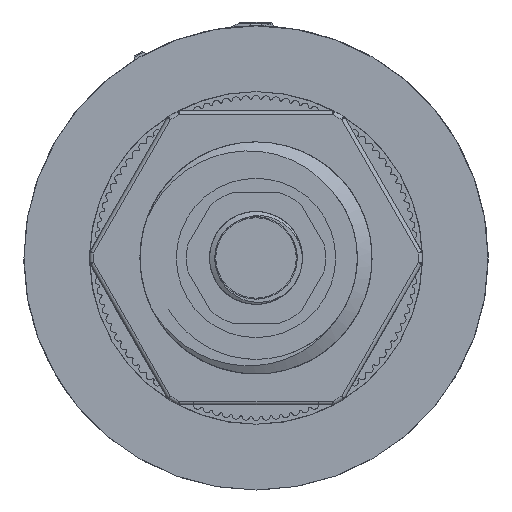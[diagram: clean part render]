
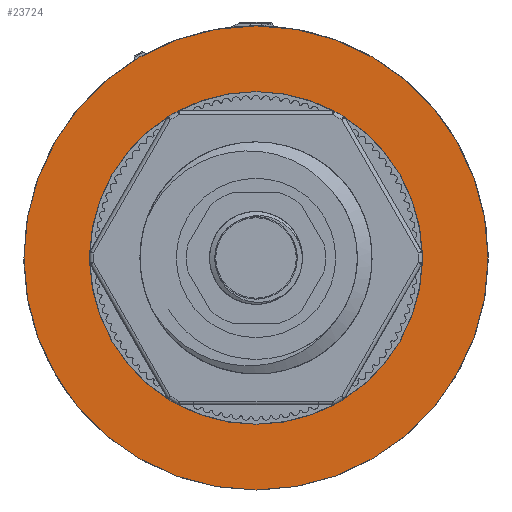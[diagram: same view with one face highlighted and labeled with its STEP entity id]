
A CAD part, front view. The second image highlights one B-rep face of the part: STEP entity #23724.
In plain terms, the highlighted planar face has unit normal (0, -1, 0).
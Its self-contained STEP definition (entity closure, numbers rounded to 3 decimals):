
#480 = DIRECTION ( 'NONE',  ( 0., 0., 1. ) ) ;
#2487 = EDGE_CURVE ( 'NONE', #6476, #5646, #4866, .T. ) ;
#2674 = FACE_OUTER_BOUND ( 'NONE', #14861, .T. ) ;
#3742 = ORIENTED_EDGE ( 'NONE', *, *, #19989, .F. ) ;
#4086 = DIRECTION ( 'NONE',  ( 0., -1., 0. ) ) ;
#4866 = CIRCLE ( 'NONE', #10434, 21.5 ) ;
#5159 = PLANE ( 'NONE',  #22711 ) ;
#5232 = ORIENTED_EDGE ( 'NONE', *, *, #2487, .F. ) ;
#5347 = AXIS2_PLACEMENT_3D ( 'NONE', #22047, #8903, #15616 ) ;
#5646 = VERTEX_POINT ( 'NONE', #8251 ) ;
#6476 = VERTEX_POINT ( 'NONE', #19961 ) ;
#8251 = CARTESIAN_POINT ( 'NONE',  ( 0., 50.3, 21.5 ) ) ;
#8256 = DIRECTION ( 'NONE',  ( 0., 0., -1. ) ) ;
#8903 = DIRECTION ( 'NONE',  ( 0., -1., 0. ) ) ;
#9163 = ORIENTED_EDGE ( 'NONE', *, *, #18937, .T. ) ;
#10339 = ORIENTED_EDGE ( 'NONE', *, *, #14150, .T. ) ;
#10434 = AXIS2_PLACEMENT_3D ( 'NONE', #26878, #22631, #20441 ) ;
#11263 = VERTEX_POINT ( 'NONE', #24715 ) ;
#11329 = EDGE_LOOP ( 'NONE', ( #3742, #5232 ) ) ;
#12195 = CIRCLE ( 'NONE', #28540, 30. ) ;
#12266 = VERTEX_POINT ( 'NONE', #24759 ) ;
#12980 = DIRECTION ( 'NONE',  ( 0., 0., -1. ) ) ;
#13043 = DIRECTION ( 'NONE',  ( 0., -1., 0. ) ) ;
#14150 = EDGE_CURVE ( 'NONE', #11263, #12266, #12195, .T. ) ;
#14678 = CIRCLE ( 'NONE', #5347, 30. ) ;
#14861 = EDGE_LOOP ( 'NONE', ( #9163, #10339 ) ) ;
#15616 = DIRECTION ( 'NONE',  ( 0., 0., -1. ) ) ;
#16382 = FACE_BOUND ( 'NONE', #11329, .T. ) ;
#18937 = EDGE_CURVE ( 'NONE', #12266, #11263, #14678, .T. ) ;
#19599 = AXIS2_PLACEMENT_3D ( 'NONE', #26650, #13043, #8256 ) ;
#19961 = CARTESIAN_POINT ( 'NONE',  ( 0., 50.3, -21.5 ) ) ;
#19989 = EDGE_CURVE ( 'NONE', #5646, #6476, #21007, .T. ) ;
#20441 = DIRECTION ( 'NONE',  ( 0., 0., -1. ) ) ;
#20499 = CARTESIAN_POINT ( 'NONE',  ( -15., 50.3, 0. ) ) ;
#21007 = CIRCLE ( 'NONE', #19599, 21.5 ) ;
#22047 = CARTESIAN_POINT ( 'NONE',  ( 0., 50.3, 0. ) ) ;
#22631 = DIRECTION ( 'NONE',  ( 0., -1., 0. ) ) ;
#22711 = AXIS2_PLACEMENT_3D ( 'NONE', #20499, #25305, #480 ) ;
#23724 = ADVANCED_FACE ( 'NONE', ( #16382, #2674 ), #5159, .F. ) ;
#24715 = CARTESIAN_POINT ( 'NONE',  ( 0., 50.3, 30. ) ) ;
#24759 = CARTESIAN_POINT ( 'NONE',  ( 0., 50.3, -30. ) ) ;
#25305 = DIRECTION ( 'NONE',  ( 0., 1., 0. ) ) ;
#26650 = CARTESIAN_POINT ( 'NONE',  ( 0., 50.3, 0. ) ) ;
#26878 = CARTESIAN_POINT ( 'NONE',  ( 0., 50.3, 0. ) ) ;
#28208 = CARTESIAN_POINT ( 'NONE',  ( 0., 50.3, 0. ) ) ;
#28540 = AXIS2_PLACEMENT_3D ( 'NONE', #28208, #4086, #12980 ) ;
